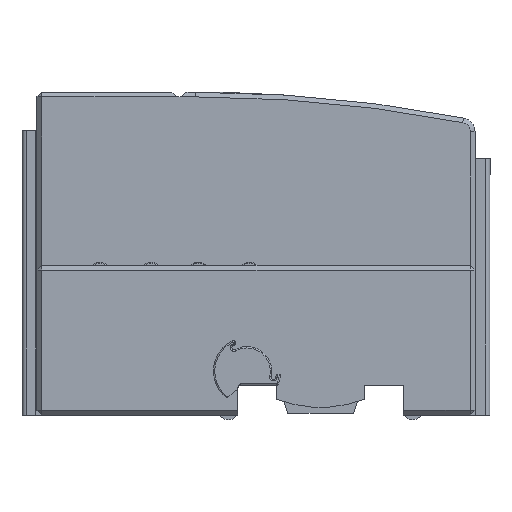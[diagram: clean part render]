
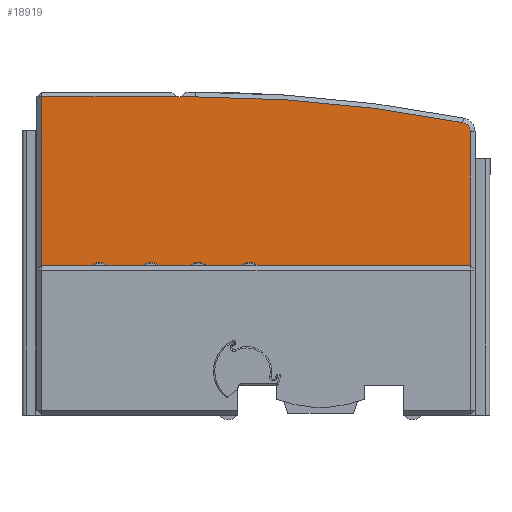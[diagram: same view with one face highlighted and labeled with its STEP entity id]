
A CAD part, left-side view. The second image highlights one B-rep face of the part: STEP entity #18919.
In plain terms, the highlighted planar face has unit normal (-1, 0, 0).
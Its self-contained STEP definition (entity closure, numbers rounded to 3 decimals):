
#845=CIRCLE('',#20244,2.);
#846=CIRCLE('',#20245,299.);
#1794=FACE_OUTER_BOUND('',#2834,.T.);
#2834=EDGE_LOOP('',(#15822,#15823,#15824,#15825,#15826,#15827,#15828,#15829));
#4400=LINE('',#30885,#6421);
#4815=LINE('',#32142,#6836);
#4816=LINE('',#32148,#6837);
#4817=LINE('',#32150,#6838);
#4818=LINE('',#32152,#6839);
#4819=LINE('',#32153,#6840);
#6421=VECTOR('',#23991,10.);
#6836=VECTOR('',#24704,10.);
#6837=VECTOR('',#24709,10.);
#6838=VECTOR('',#24710,10.);
#6839=VECTOR('',#24711,10.);
#6840=VECTOR('',#24712,10.);
#8168=VERTEX_POINT('',#30883);
#8169=VERTEX_POINT('',#30884);
#8478=VERTEX_POINT('',#32141);
#8479=VERTEX_POINT('',#32143);
#8480=VERTEX_POINT('',#32145);
#8481=VERTEX_POINT('',#32147);
#8482=VERTEX_POINT('',#32149);
#8483=VERTEX_POINT('',#32151);
#10507=EDGE_CURVE('',#8168,#8169,#4400,.T.);
#10970=EDGE_CURVE('',#8478,#8169,#4815,.T.);
#10971=EDGE_CURVE('',#8479,#8478,#845,.T.);
#10972=EDGE_CURVE('',#8480,#8479,#846,.T.);
#10973=EDGE_CURVE('',#8481,#8480,#4816,.T.);
#10974=EDGE_CURVE('',#8481,#8482,#4817,.T.);
#10975=EDGE_CURVE('',#8483,#8482,#4818,.T.);
#10976=EDGE_CURVE('',#8168,#8483,#4819,.T.);
#15822=ORIENTED_EDGE('',*,*,#10970,.F.);
#15823=ORIENTED_EDGE('',*,*,#10971,.F.);
#15824=ORIENTED_EDGE('',*,*,#10972,.F.);
#15825=ORIENTED_EDGE('',*,*,#10973,.F.);
#15826=ORIENTED_EDGE('',*,*,#10974,.T.);
#15827=ORIENTED_EDGE('',*,*,#10975,.F.);
#15828=ORIENTED_EDGE('',*,*,#10976,.F.);
#15829=ORIENTED_EDGE('',*,*,#10507,.T.);
#17003=PLANE('',#20243);
#18919=ADVANCED_FACE('',(#1794),#17003,.F.);
#20243=AXIS2_PLACEMENT_3D('',#32140,#24702,#24703);
#20244=AXIS2_PLACEMENT_3D('',#32144,#24705,#24706);
#20245=AXIS2_PLACEMENT_3D('',#32146,#24707,#24708);
#23991=DIRECTION('',(0.,-1.,0.));
#24702=DIRECTION('center_axis',(1.,0.,0.));
#24703=DIRECTION('ref_axis',(0.,-1.,0.));
#24704=DIRECTION('',(0.,0.,-1.));
#24705=DIRECTION('center_axis',(1.,0.,0.));
#24706=DIRECTION('ref_axis',(0.,-0.772,0.636));
#24707=DIRECTION('center_axis',(1.,0.,0.));
#24708=DIRECTION('ref_axis',(0.,0.,
1.));
#24709=DIRECTION('',(0.,-1.,0.));
#24710=DIRECTION('',(0.,1.,0.));
#24711=DIRECTION('',(0.,-1.,0.));
#24712=DIRECTION('',(0.,0.,1.));
#30883=CARTESIAN_POINT('',(-16.,95.,25.6));
#30884=CARTESIAN_POINT('',(-16.,3.4,25.6));
#30885=CARTESIAN_POINT('',(-16.,72.605,25.6));
#32140=CARTESIAN_POINT('Origin',(-16.,88.6,43.6));
#32141=CARTESIAN_POINT('',(-16.,3.4,54.138));
#32142=CARTESIAN_POINT('',(-16.,3.4,9.754));
#32143=CARTESIAN_POINT('',(-16.,5.018,56.101));
#32144=CARTESIAN_POINT('Origin',(-16.,5.4,54.138));
#32145=CARTESIAN_POINT('',(-16.,62.099,61.6));
#32146=CARTESIAN_POINT('Origin',(-16.,62.099,-237.4));
#32147=CARTESIAN_POINT('',(-16.,65.18,61.6));
#32148=CARTESIAN_POINT('',(-16.,55.654,61.6));
#32149=CARTESIAN_POINT('',(-16.,66.18,61.6));
#32150=CARTESIAN_POINT('',(-16.,57.695,61.6));
#32151=CARTESIAN_POINT('',(-16.,95.,61.6));
#32152=CARTESIAN_POINT('',(-16.,55.654,61.6));
#32153=CARTESIAN_POINT('',(-16.,95.,44.254));
